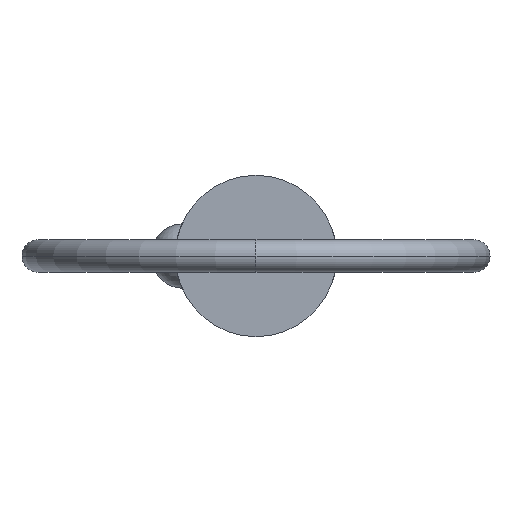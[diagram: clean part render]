
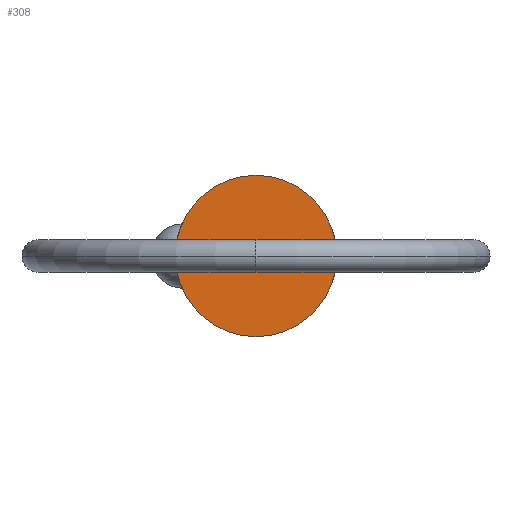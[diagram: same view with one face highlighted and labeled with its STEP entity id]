
A CAD part, left-side view. The second image highlights one B-rep face of the part: STEP entity #308.
In plain terms, the highlighted planar face has unit normal (-1, 0, 0).
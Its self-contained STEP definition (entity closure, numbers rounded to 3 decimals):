
#18 = AXIS2_PLACEMENT_3D ( 'NONE', #809, #282, #678 ) ;
#21 = CARTESIAN_POINT ( 'NONE',  ( 0., 0., 4.7 ) ) ;
#174 = EDGE_LOOP ( 'NONE', ( #222, #379 ) ) ;
#213 = AXIS2_PLACEMENT_3D ( 'NONE', #835, #648, #233 ) ;
#222 = ORIENTED_EDGE ( 'NONE', *, *, #434, .F. ) ;
#233 = DIRECTION ( 'NONE',  ( 0., 0., -1. ) ) ;
#281 = DIRECTION ( 'NONE',  ( 1., 0., 0. ) ) ;
#282 = DIRECTION ( 'NONE',  ( -1., 0., 0. ) ) ;
#308 = ADVANCED_FACE ( 'NONE', ( #423 ), #687, .T. ) ;
#322 = VERTEX_POINT ( 'NONE', #21 ) ;
#379 = ORIENTED_EDGE ( 'NONE', *, *, #731, .F. ) ;
#423 = FACE_OUTER_BOUND ( 'NONE', #174, .T. ) ;
#434 = EDGE_CURVE ( 'NONE', #770, #322, #839, .T. ) ;
#484 = CARTESIAN_POINT ( 'NONE',  ( 0., 0., 0. ) ) ;
#492 = DIRECTION ( 'NONE',  ( 0., 0., -1. ) ) ;
#599 = CIRCLE ( 'NONE', #639, 4.7 ) ;
#639 = AXIS2_PLACEMENT_3D ( 'NONE', #484, #281, #492 ) ;
#648 = DIRECTION ( 'NONE',  ( 1., 0., 0. ) ) ;
#678 = DIRECTION ( 'NONE',  ( 0., 0., 1. ) ) ;
#687 = PLANE ( 'NONE',  #18 ) ;
#731 = EDGE_CURVE ( 'NONE', #322, #770, #599, .T. ) ;
#743 = CARTESIAN_POINT ( 'NONE',  ( 0., 0., -4.7 ) ) ;
#770 = VERTEX_POINT ( 'NONE', #743 ) ;
#809 = CARTESIAN_POINT ( 'NONE',  ( 0., 0., 0. ) ) ;
#835 = CARTESIAN_POINT ( 'NONE',  ( 0., 0., 0. ) ) ;
#839 = CIRCLE ( 'NONE', #213, 4.7 ) ;
